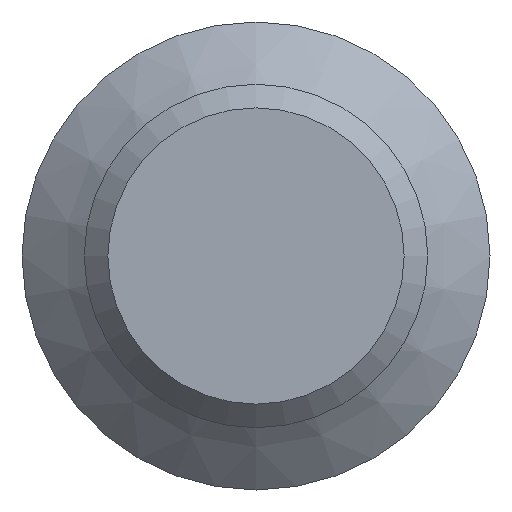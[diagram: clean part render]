
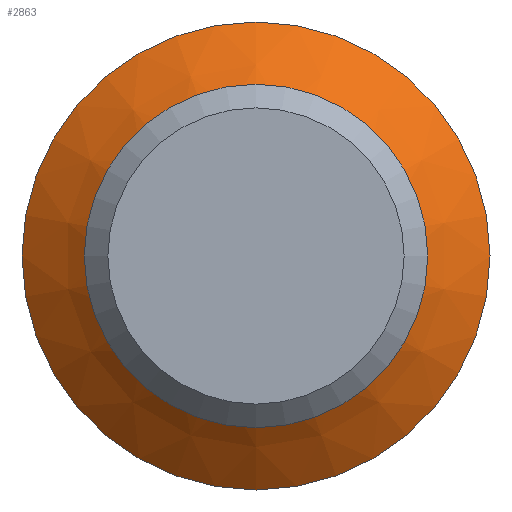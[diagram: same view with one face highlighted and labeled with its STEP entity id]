
A CAD part, front view. The second image highlights one B-rep face of the part: STEP entity #2863.
In plain terms, the highlighted conical face has half-angle 50.389 degrees and reference radius 16.125 mm.
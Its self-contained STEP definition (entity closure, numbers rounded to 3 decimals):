
#2826=CARTESIAN_POINT('',(0.,-6.5,12.5));
#2827=VERTEX_POINT('',#2826);
#2828=CARTESIAN_POINT('',(0.,-6.5,0.));
#2829=DIRECTION('',(0.0,1.0,0.0));
#2830=DIRECTION('',(0.0,0.0,1.0));
#2831=AXIS2_PLACEMENT_3D('',#2828,#2829,#2830);
#2832=CIRCLE('',#2831,12.5);
#2833=EDGE_CURVE('',#2827,#2827,#2832,.T.);
#2844=CARTESIAN_POINT('',(0.,-3.5,0.));
#2845=DIRECTION('',(0.,1.0,0.));
#2846=DIRECTION('',(0.0,0.0,1.0));
#2847=AXIS2_PLACEMENT_3D('',#2844,#2845,#2846);
#2848=CONICAL_SURFACE('',#2847,16.125,50.389);
#2849=CARTESIAN_POINT('',(0.,-0.5,19.75));
#2850=VERTEX_POINT('',#2849);
#2851=CARTESIAN_POINT('',(0.,-0.5,0.));
#2852=DIRECTION('',(0.0,1.0,0.0));
#2853=DIRECTION('',(0.0,0.0,1.0));
#2854=AXIS2_PLACEMENT_3D('',#2851,#2852,#2853);
#2855=CIRCLE('',#2854,19.75);
#2856=EDGE_CURVE('',#2850,#2850,#2855,.T.);
#2857=ORIENTED_EDGE('',*,*,#2856,.F.);
#2858=EDGE_LOOP('',(#2857));
#2859=FACE_OUTER_BOUND('',#2858,.T.);
#2860=ORIENTED_EDGE('',*,*,#2833,.T.);
#2861=EDGE_LOOP('',(#2860));
#2862=FACE_BOUND('',#2861,.T.);
#2863=ADVANCED_FACE('',(#2859,#2862),#2848,.T.);
